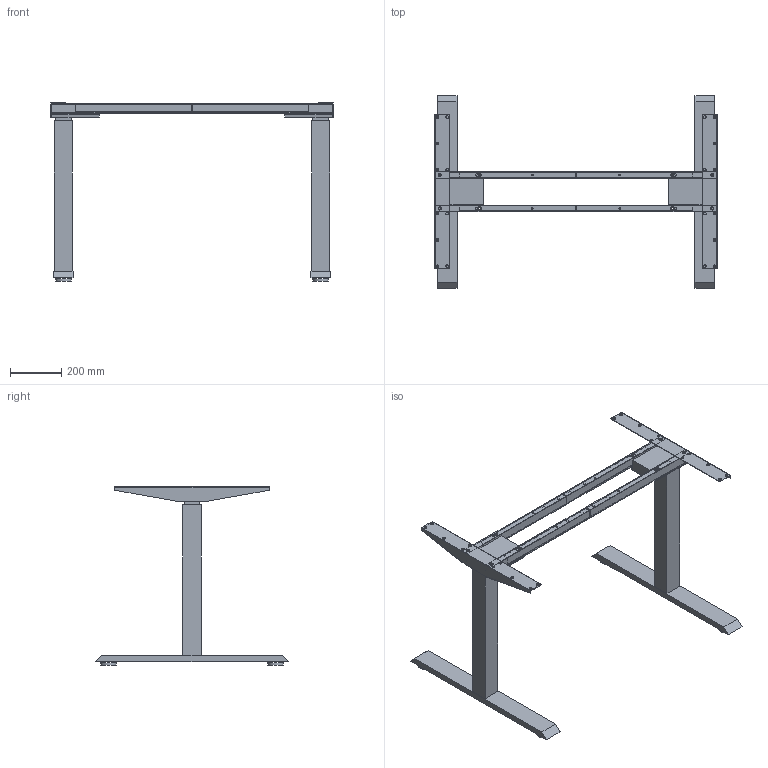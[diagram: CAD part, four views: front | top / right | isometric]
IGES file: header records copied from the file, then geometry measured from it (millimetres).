
Start section: Data from Parasolid IGES Translator 20.0.26, Copyright(c) 2006 Siemens P LM Software. All Rights Reserved.
Global section: file name: 9309751.igs; native system: By Siemens PLM Incorporated; preprocessor: XPlus GENERIC/IGES 20.0.26; author: Noname; organization: Noname; date: 20220302.130538; units: millimetre
Bounding box: 1100 x 750 x 692 mm (x, y, z)
Surface area: 1876381.5 mm2 (no closed solid volume)
Topology: 0 solids, 0 shells, 312 faces, 1452 edges, 1272 vertices
Faces by surface type: extrusion 198, revolution 114
